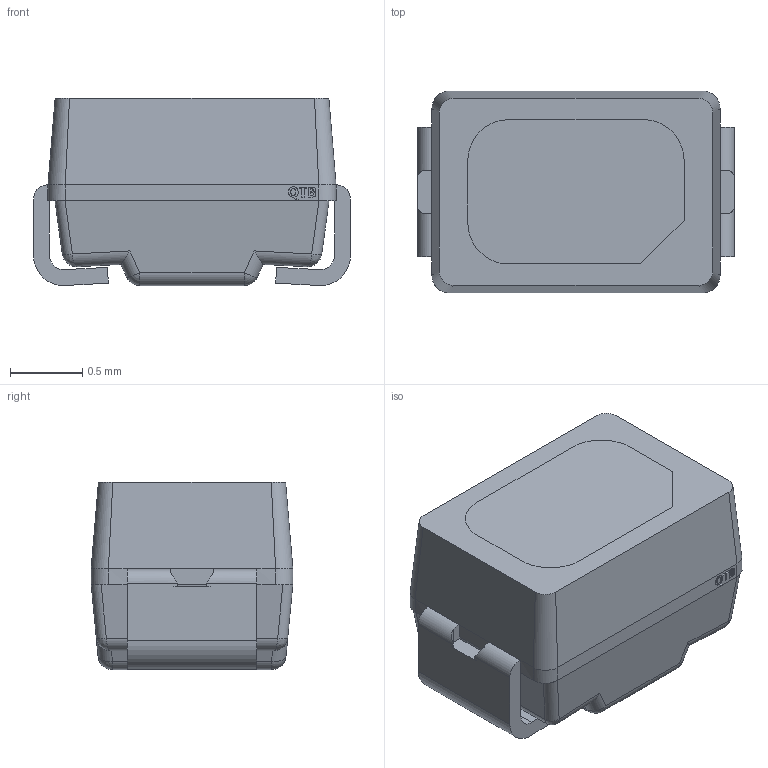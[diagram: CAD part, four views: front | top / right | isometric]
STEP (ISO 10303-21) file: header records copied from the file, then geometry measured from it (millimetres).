
FILE_DESCRIPTION(/* description */ (''),/* implementation_level */ '2;1');
FILE_NAME(/* name */ '5fab11aaa90bb40f56aa8448',/* time_stamp */ '2020-11-10T22:18:19+00:00',/* author */ (''),/* organization */ (''),/* preprocessor_version */ 'ST-DEVELOPER v16.7',/* originating_system */ $,/* authorisation */ $);
FILE_SCHEMA (('AUTOMOTIVE_DESIGN {1 0 10303 214 3 1 1}'));
Length unit declared in the file: metre
Products named in the file (4): QBLP675; Part 3; Part 1; Part 2
Assembly tree (3 placements, depth 2):
  QBLP675
    Part 3
    Part 1
    Part 2
Bounding box: 2.2 x 1.4 x 1.3 mm (x, y, z)
Volume: 3.4 mm3; surface area: 29.5 mm2
Topology: 3 solids, 3 shells, 179 faces, 475 edges, 294 vertices
Faces by surface type: plane 94, bspline 47, cylinder 34, sphere 4
Entity records: 5948 total; most frequent: CARTESIAN_POINT 1749, ORIENTED_EDGE 934, DIRECTION 713, EDGE_CURVE 467, VERTEX_POINT 294, LINE 281, VECTOR 281, AXIS2_PLACEMENT_3D 216
